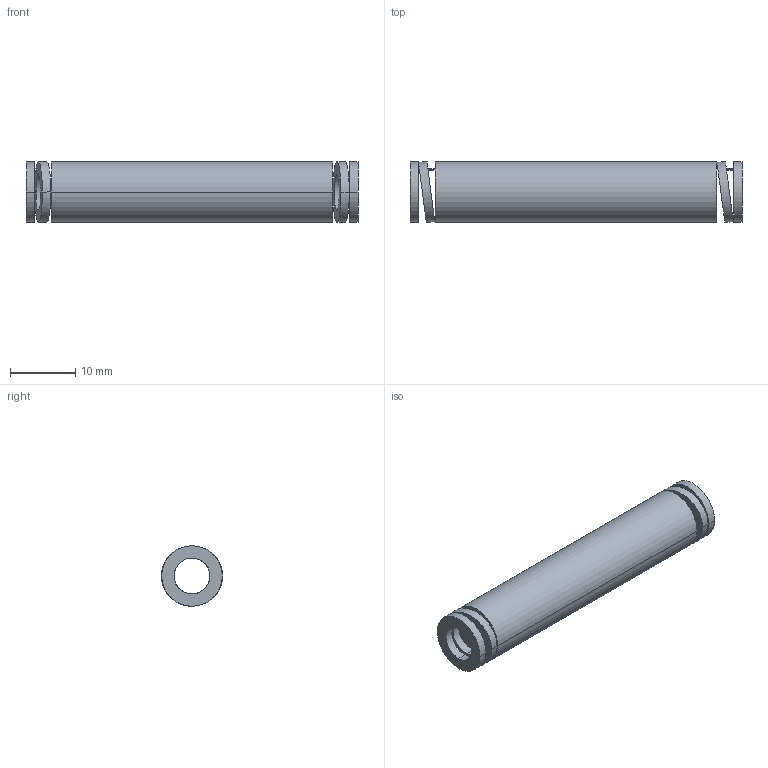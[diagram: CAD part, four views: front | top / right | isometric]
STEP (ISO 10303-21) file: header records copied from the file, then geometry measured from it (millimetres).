
FILE_DESCRIPTION(('CATIA V5 STEP Exchange'),'2;1');
FILE_NAME('C:\Users\Utente\Desktop\IO LAVORO\3D X SITO CF\X SITO\3D files 392B\392-B10-051.stp','2021-08-12T13:00:51+00:00',('none'),('none'),'CATIA Version 5 Release 20 GA (IN-10)','CATIA V5 STEP AP203','none');
FILE_SCHEMA(('CONFIG_CONTROL_DESIGN'));
Length unit declared in the file: millimetre
Products named in the file (1): 392-B10-051
Bounding box: 51 x 9.39 x 9.3 mm (x, y, z)
Volume: 2142.1 mm3; surface area: 2697.9 mm2
Topology: 1 solids, 1 shells, 38 faces, 92 edges, 64 vertices
Faces by surface type: cylinder 28, plane 10
Entity records: 1548 total; most frequent: CARTESIAN_POINT 657, ORIENTED_EDGE 184, DIRECTION 130, EDGE_CURVE 92, AXIS2_PLACEMENT_3D 65, VERTEX_POINT 64, EDGE_LOOP 56, ADVANCED_FACE 38
